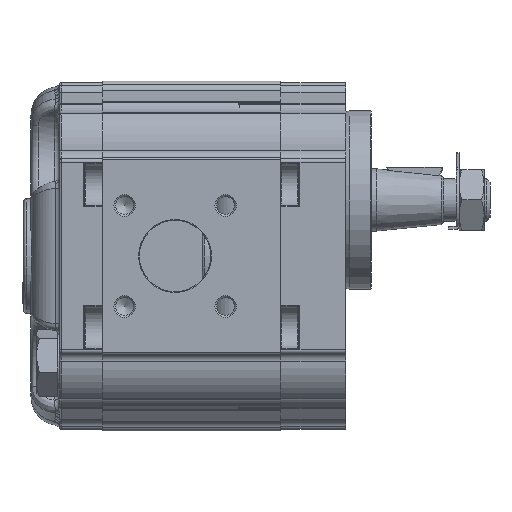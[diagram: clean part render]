
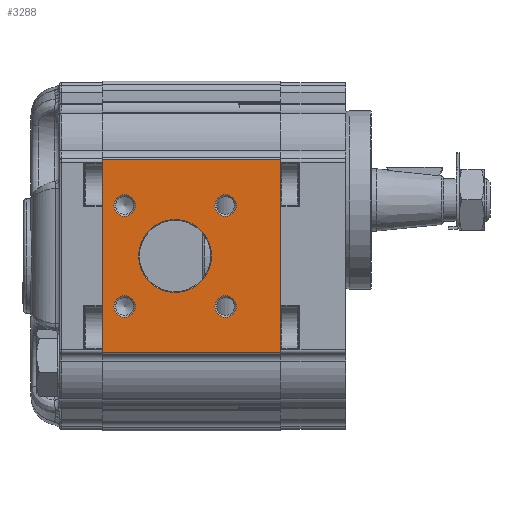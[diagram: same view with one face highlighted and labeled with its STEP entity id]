
A CAD part, left-side view. The second image highlights one B-rep face of the part: STEP entity #3288.
In plain terms, the highlighted planar face has unit normal (-1, 0, 0).
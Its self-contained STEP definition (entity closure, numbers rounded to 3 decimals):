
#3288 = ADVANCED_FACE( '', ( #7694, #7695, #7696, #7697, #7698, #7699 ), #7700, .T. );
#7694 = FACE_BOUND( '', #14536, .T. );
#7695 = FACE_BOUND( '', #14537, .T. );
#7696 = FACE_BOUND( '', #14538, .T. );
#7697 = FACE_BOUND( '', #14539, .T. );
#7698 = FACE_BOUND( '', #14540, .T. );
#7699 = FACE_OUTER_BOUND( '', #14541, .T. );
#7700 = PLANE( '', #14542 );
#14536 = EDGE_LOOP( '', ( #25975 ) );
#14537 = EDGE_LOOP( '', ( #25976 ) );
#14538 = EDGE_LOOP( '', ( #25977 ) );
#14539 = EDGE_LOOP( '', ( #25978 ) );
#14540 = EDGE_LOOP( '', ( #25979 ) );
#14541 = EDGE_LOOP( '', ( #25980, #25981, #25982, #25983 ) );
#14542 = AXIS2_PLACEMENT_3D( '', #25984, #25985, #25986 );
#25975 = ORIENTED_EDGE( '', *, *, #39253, .T. );
#25976 = ORIENTED_EDGE( '', *, *, #39254, .T. );
#25977 = ORIENTED_EDGE( '', *, *, #35810, .T. );
#25978 = ORIENTED_EDGE( '', *, *, #39255, .T. );
#25979 = ORIENTED_EDGE( '', *, *, #36743, .T. );
#25980 = ORIENTED_EDGE( '', *, *, #39256, .F. );
#25981 = ORIENTED_EDGE( '', *, *, #39257, .F. );
#25982 = ORIENTED_EDGE( '', *, *, #38774, .T. );
#25983 = ORIENTED_EDGE( '', *, *, #37716, .T. );
#25984 = CARTESIAN_POINT( '', ( -43., 50., 27.048 ) );
#25985 = DIRECTION( '', ( -1., 0., 0. ) );
#25986 = DIRECTION( '', ( 0., 0., 1. ) );
#35810 = EDGE_CURVE( '', #42375, #42375, #42376, .F. );
#36743 = EDGE_CURVE( '', #43962, #43962, #43963, .F. );
#37716 = EDGE_CURVE( '', #45568, #45565, #45569, .T. );
#38774 = EDGE_CURVE( '', #47192, #45568, #47193, .T. );
#39253 = EDGE_CURVE( '', #47870, #47870, #47871, .F. );
#39254 = EDGE_CURVE( '', #47872, #47872, #47873, .F. );
#39255 = EDGE_CURVE( '', #47874, #47874, #47875, .F. );
#39256 = EDGE_CURVE( '', #47876, #45565, #47877, .T. );
#39257 = EDGE_CURVE( '', #47192, #47876, #47878, .T. );
#42375 = VERTEX_POINT( '', #52082 );
#42376 = CIRCLE( '', #52083, 3. );
#43962 = VERTEX_POINT( '', #55341 );
#43963 = CIRCLE( '', #55342, 3. );
#45565 = VERTEX_POINT( '', #58227 );
#45568 = VERTEX_POINT( '', #58230 );
#45569 = LINE( '', #58231, #58232 );
#47192 = VERTEX_POINT( '', #61374 );
#47193 = LINE( '', #61375, #61376 );
#47870 = VERTEX_POINT( '', #62535 );
#47871 = CIRCLE( '', #62536, 10.2 );
#47872 = VERTEX_POINT( '', #62537 );
#47873 = CIRCLE( '', #62538, 3. );
#47874 = VERTEX_POINT( '', #62539 );
#47875 = CIRCLE( '', #62540, 3. );
#47876 = VERTEX_POINT( '', #62541 );
#47877 = LINE( '', #62542, #62543 );
#47878 = LINE( '', #62544, #62545 );
#52082 = CARTESIAN_POINT( '', ( -43., 43.742, 17.142 ) );
#52083 = AXIS2_PLACEMENT_3D( '', #68814, #68815, #68816 );
#55341 = CARTESIAN_POINT( '', ( -43., 15.458, -11.142 ) );
#55342 = AXIS2_PLACEMENT_3D( '', #69792, #69793, #69794 );
#58227 = CARTESIAN_POINT( '', ( -43., 0., -27.048 ) );
#58230 = CARTESIAN_POINT( '', ( -43., 50., -27.048 ) );
#58231 = CARTESIAN_POINT( '', ( -43., 50., -27.048 ) );
#58232 = VECTOR( '', #70902, 1000. );
#61374 = CARTESIAN_POINT( '', ( -43., 50., 27.048 ) );
#61375 = CARTESIAN_POINT( '', ( -43., 50., 27.048 ) );
#61376 = VECTOR( '', #72067, 1000. );
#62535 = CARTESIAN_POINT( '', ( -43., 29.6, 10.2 ) );
#62536 = AXIS2_PLACEMENT_3D( '', #72610, #72611, #72612 );
#62537 = CARTESIAN_POINT( '', ( -43., 43.742, -11.142 ) );
#62538 = AXIS2_PLACEMENT_3D( '', #72613, #72614, #72615 );
#62539 = CARTESIAN_POINT( '', ( -43., 15.458, 17.142 ) );
#62540 = AXIS2_PLACEMENT_3D( '', #72616, #72617, #72618 );
#62541 = CARTESIAN_POINT( '', ( -43., 0., 27.048 ) );
#62542 = CARTESIAN_POINT( '', ( -43., 0., 27.048 ) );
#62543 = VECTOR( '', #72619, 1000. );
#62544 = CARTESIAN_POINT( '', ( -43., 50., 27.048 ) );
#62545 = VECTOR( '', #72620, 1000. );
#68814 = CARTESIAN_POINT( '', ( -43., 43.742, 14.142 ) );
#68815 = DIRECTION( '', ( -1., 0., 0. ) );
#68816 = DIRECTION( '', ( 0., 0., 1. ) );
#69792 = CARTESIAN_POINT( '', ( -43., 15.458, -14.142 ) );
#69793 = DIRECTION( '', ( -1., 0., 0. ) );
#69794 = DIRECTION( '', ( 0., 0., 1. ) );
#70902 = DIRECTION( '', ( 0., -1., 0. ) );
#72067 = DIRECTION( '', ( 0., 0., -1. ) );
#72610 = CARTESIAN_POINT( '', ( -43., 29.6, 0. ) );
#72611 = DIRECTION( '', ( -1., 0., 0. ) );
#72612 = DIRECTION( '', ( 0., 0., 1. ) );
#72613 = CARTESIAN_POINT( '', ( -43., 43.742, -14.142 ) );
#72614 = DIRECTION( '', ( -1., 0., 0. ) );
#72615 = DIRECTION( '', ( 0., 0., 1. ) );
#72616 = CARTESIAN_POINT( '', ( -43., 15.458, 14.142 ) );
#72617 = DIRECTION( '', ( -1., 0., 0. ) );
#72618 = DIRECTION( '', ( 0., 0., 1. ) );
#72619 = DIRECTION( '', ( 0., 0., -1. ) );
#72620 = DIRECTION( '', ( 0., -1., 0. ) );
